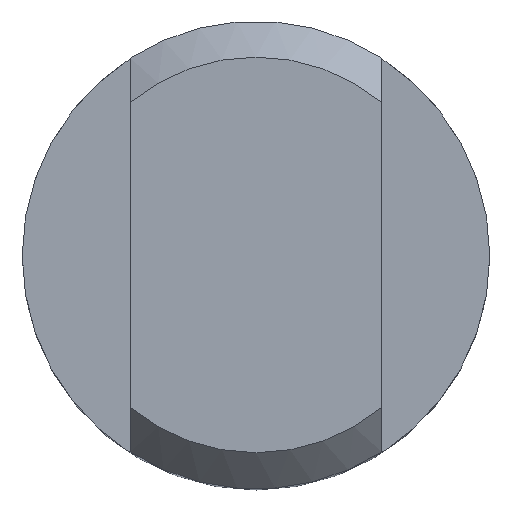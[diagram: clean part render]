
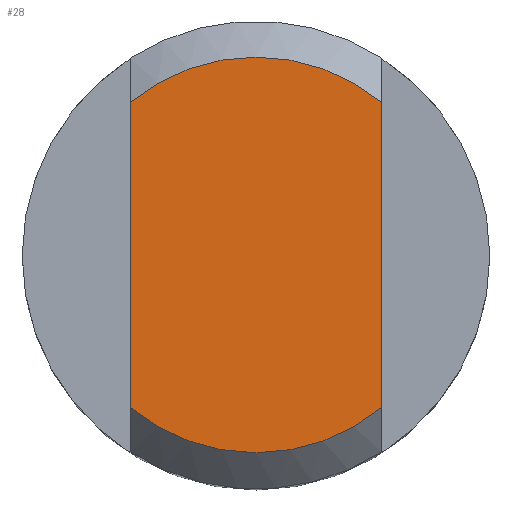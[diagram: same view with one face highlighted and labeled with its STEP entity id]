
A CAD part, top view. The second image highlights one B-rep face of the part: STEP entity #28.
In plain terms, the highlighted planar face has unit normal (0, 0, 1).
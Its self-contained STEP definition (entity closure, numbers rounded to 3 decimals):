
#6 = AXIS2_PLACEMENT_3D ( 'NONE', #737, #354, #160 ) ;
#8 = VECTOR ( 'NONE', #275, 1000. ) ;
#9 = VERTEX_POINT ( 'NONE', #410 ) ;
#28 = ADVANCED_FACE ( 'NONE', ( #226 ), #802, .F. ) ;
#47 = ORIENTED_EDGE ( 'NONE', *, *, #311, .T. ) ;
#63 = DIRECTION ( 'NONE',  ( 0., 0., -1. ) ) ;
#65 = EDGE_CURVE ( 'NONE', #316, #700, #744, .T. ) ;
#72 = AXIS2_PLACEMENT_3D ( 'NONE', #82, #413, #153 ) ;
#74 = EDGE_LOOP ( 'NONE', ( #268, #47, #261, #830 ) ) ;
#82 = CARTESIAN_POINT ( 'NONE',  ( 0., 0., 308.5 ) ) ;
#153 = DIRECTION ( 'NONE',  ( 1., 0., 0. ) ) ;
#160 = DIRECTION ( 'NONE',  ( 0., 1., 0. ) ) ;
#163 = CARTESIAN_POINT ( 'NONE',  ( 17.5, -21.213, 308.5 ) ) ;
#166 = DIRECTION ( 'NONE',  ( 0., -1., 0. ) ) ;
#172 = VECTOR ( 'NONE', #166, 1000. ) ;
#186 = AXIS2_PLACEMENT_3D ( 'NONE', #325, #63, #455 ) ;
#193 = EDGE_CURVE ( 'NONE', #515, #9, #412, .T. ) ;
#226 = FACE_OUTER_BOUND ( 'NONE', #74, .T. ) ;
#261 = ORIENTED_EDGE ( 'NONE', *, *, #193, .F. ) ;
#268 = ORIENTED_EDGE ( 'NONE', *, *, #65, .F. ) ;
#275 = DIRECTION ( 'NONE',  ( 0., 1., 0. ) ) ;
#311 = EDGE_CURVE ( 'NONE', #316, #9, #668, .T. ) ;
#316 = VERTEX_POINT ( 'NONE', #163 ) ;
#325 = CARTESIAN_POINT ( 'NONE',  ( 0., 0., 308.5 ) ) ;
#354 = DIRECTION ( 'NONE',  ( 0., 0., -1. ) ) ;
#410 = CARTESIAN_POINT ( 'NONE',  ( 17.5, 21.213, 308.5 ) ) ;
#412 = CIRCLE ( 'NONE', #186, 27.5 ) ;
#413 = DIRECTION ( 'NONE',  ( 0., 0., -1. ) ) ;
#423 = CARTESIAN_POINT ( 'NONE',  ( 17.5, 25., 308.5 ) ) ;
#455 = DIRECTION ( 'NONE',  ( 1., 0., 0. ) ) ;
#484 = CARTESIAN_POINT ( 'NONE',  ( -17.5, -25., 308.5 ) ) ;
#515 = VERTEX_POINT ( 'NONE', #697 ) ;
#528 = CARTESIAN_POINT ( 'NONE',  ( -17.5, -21.213, 308.5 ) ) ;
#546 = LINE ( 'NONE', #484, #172 ) ;
#668 = LINE ( 'NONE', #423, #8 ) ;
#697 = CARTESIAN_POINT ( 'NONE',  ( -17.5, 21.213, 308.5 ) ) ;
#700 = VERTEX_POINT ( 'NONE', #528 ) ;
#737 = CARTESIAN_POINT ( 'NONE',  ( 0., 0., 308.5 ) ) ;
#744 = CIRCLE ( 'NONE', #72, 27.5 ) ;
#802 = PLANE ( 'NONE',  #6 ) ;
#830 = ORIENTED_EDGE ( 'NONE', *, *, #831, .T. ) ;
#831 = EDGE_CURVE ( 'NONE', #515, #700, #546, .T. ) ;
